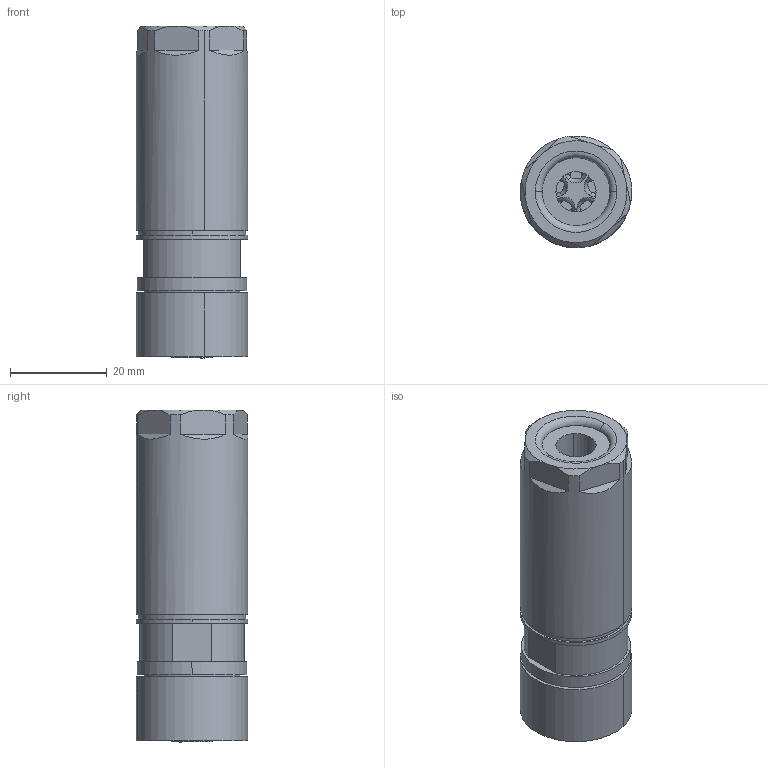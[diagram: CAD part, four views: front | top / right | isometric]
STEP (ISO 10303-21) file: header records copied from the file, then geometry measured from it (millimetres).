
FILE_DESCRIPTION(('Creo Elements/Direct Modeling STEP Export'),'2;1');
FILE_NAME('C:/temp/JobSpoolerServerData/JobServer Files/f66f9816-821e-4c37-9951-0b48e22d4ada/work/output/model.stp','2020-03-31T15:45:37',(''),(''),'Creo Elements/Direct Modeling STEP processor for AP214 (Solid Model)','Creo Elements/Direct Modeling 20.1A 29-Sep-2018 (C) Parametric Technology GmbH','');
FILE_SCHEMA(('AUTOMOTIVE_DESIGN { 1 0 10303 214 1 1 1 1 }'));
Length unit declared in the file: millimetre
Products named in the file (3): SACC_FK_4PEPL-select; SACC_M12FS-select; SACC_M12FSK_4PEPL_CL_SH-select
Assembly tree (2 placements, depth 2):
  SACC_M12FSK_4PEPL_CL_SH-select
    SACC_M12FS-select
    SACC_FK_4PEPL-select
Bounding box: 23 x 23 x 68.5 mm (x, y, z)
Volume: 20971.1 mm3; surface area: 12542.4 mm2
Topology: 2 solids, 2 shells, 527 faces, 1425 edges, 945 vertices
Faces by surface type: plane 293, cylinder 161, cone 39, torus 23, extrusion 11
Entity records: 22222 total; most frequent: CARTESIAN_POINT 7136, ORIENTED_EDGE 2850, DIRECTION 2520, EDGE_CURVE 1425, VERTEX_POINT 945, VECTOR 842, AXIS2_PLACEMENT_3D 839, LINE 831
